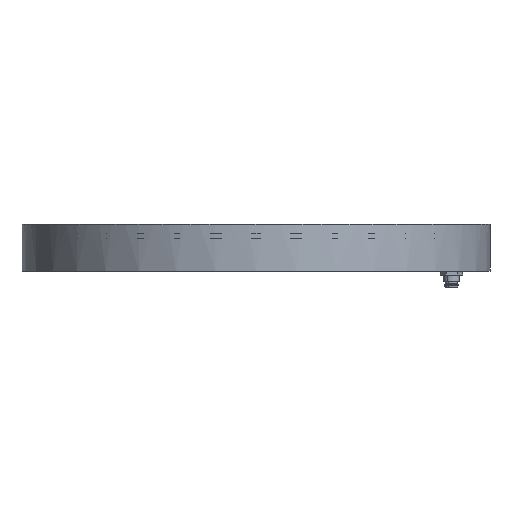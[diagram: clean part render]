
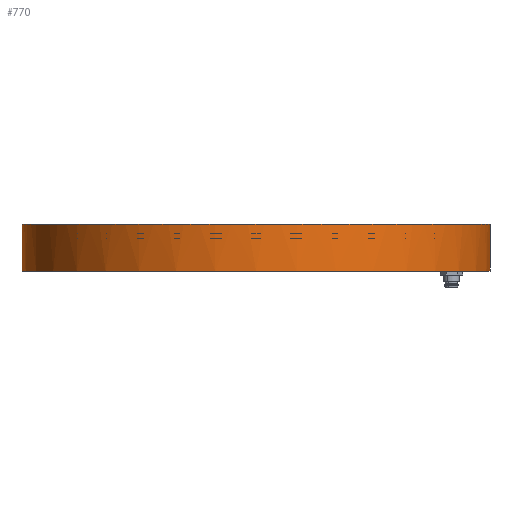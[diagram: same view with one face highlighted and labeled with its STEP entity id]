
A CAD part, front view. The second image highlights one B-rep face of the part: STEP entity #770.
In plain terms, the highlighted cylindrical face has radius 120 mm (diameter 240 mm), a partial arc.
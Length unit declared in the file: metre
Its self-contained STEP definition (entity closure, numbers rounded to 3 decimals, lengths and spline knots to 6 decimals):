
#770=ADVANCED_FACE('0:6892',(#1669),#1670,.T.);
#1669=FACE_OUTER_BOUND('',#2558,.T.);
#1670=CYLINDRICAL_SURFACE('',#2559,0.12);
#2558=EDGE_LOOP('',(#3733,#3734,#3735,#3736));
#2559=AXIS2_PLACEMENT_3D('',#3737,#3738,#3739);
#3733=ORIENTED_EDGE('',*,*,#6410,.F.);
#3734=ORIENTED_EDGE('',*,*,#6411,.F.);
#3735=ORIENTED_EDGE('',*,*,#6412,.F.);
#3736=ORIENTED_EDGE('',*,*,#6413,.T.);
#3737=CARTESIAN_POINT('',(0.0,0.0,0.0));
#3738=DIRECTION('',(-0.0,0.0,1.0));
#3739=DIRECTION('',(1.0,0.0,0.0));
#6410=EDGE_CURVE('',#7878,#7879,#7880,.T.);
#6411=EDGE_CURVE('0:8209',#7881,#7878,#7882,.T.);
#6412=EDGE_CURVE('',#7883,#7881,#7884,.T.);
#6413=EDGE_CURVE('0:8005',#7883,#7879,#7885,.T.);
#7878=VERTEX_POINT('',#9131);
#7879=VERTEX_POINT('',#9132);
#7880=LINE('',#9133,#9134);
#7881=VERTEX_POINT('',#9135);
#7882=CIRCLE('',#9136,0.12);
#7883=VERTEX_POINT('',#9137);
#7884=LINE('',#9138,#9139);
#7885=CIRCLE('',#9140,0.12);
#9131=CARTESIAN_POINT('',(0.12,0.,0.016));
#9132=CARTESIAN_POINT('',(0.12,0.,-0.008));
#9133=CARTESIAN_POINT('',(0.12,0.,0.0));
#9134=VECTOR('',#10752,1.0);
#9135=CARTESIAN_POINT('',(-0.12,0.,0.016));
#9136=AXIS2_PLACEMENT_3D('',#10753,#10754,#10755);
#9137=CARTESIAN_POINT('',(-0.12,0.,-0.008));
#9138=CARTESIAN_POINT('',(-0.12,0.,0.0));
#9139=VECTOR('',#10756,1.0);
#9140=AXIS2_PLACEMENT_3D('',#10757,#10758,#10759);
#10752=DIRECTION('',(0.0,-0.0,-1.0));
#10753=CARTESIAN_POINT('',(0.0,0.0,0.016));
#10754=DIRECTION('',(0.0,0.0,1.0));
#10755=DIRECTION('',(1.0,0.0,0.0));
#10756=DIRECTION('',(0.0,0.0,1.0));
#10757=CARTESIAN_POINT('',(0.0,0.0,-0.008));
#10758=DIRECTION('',(0.0,0.0,1.0));
#10759=DIRECTION('',(1.0,0.0,0.0));
